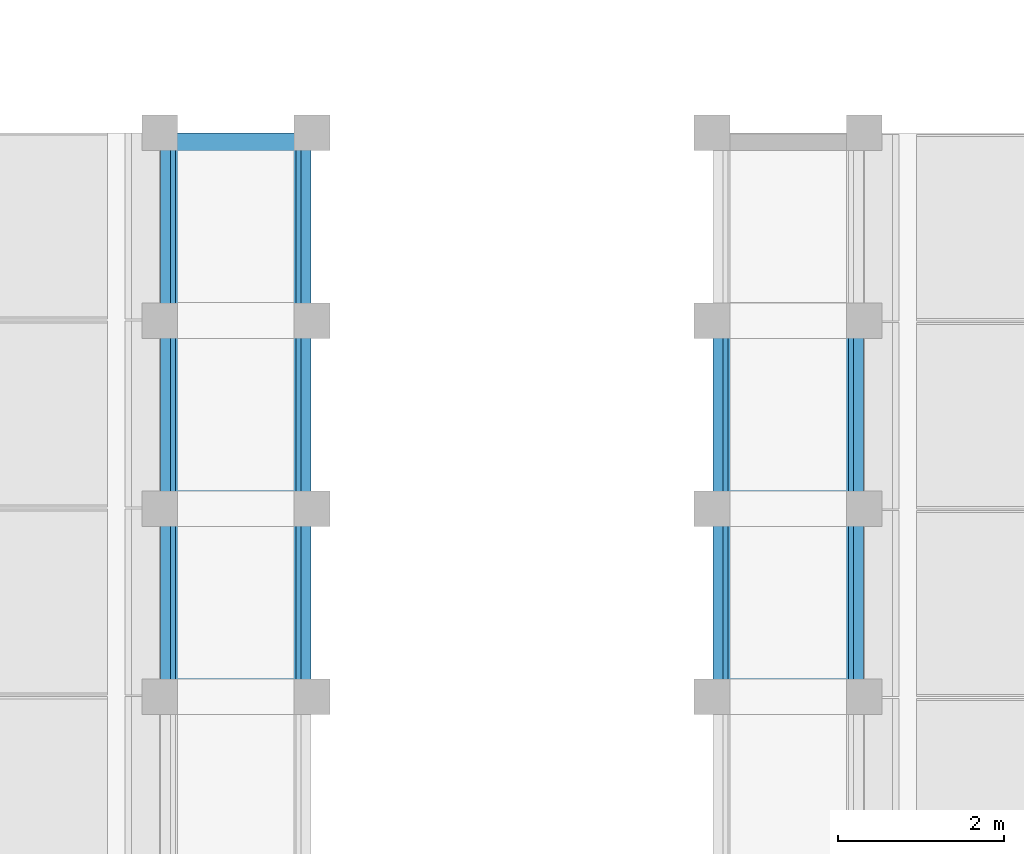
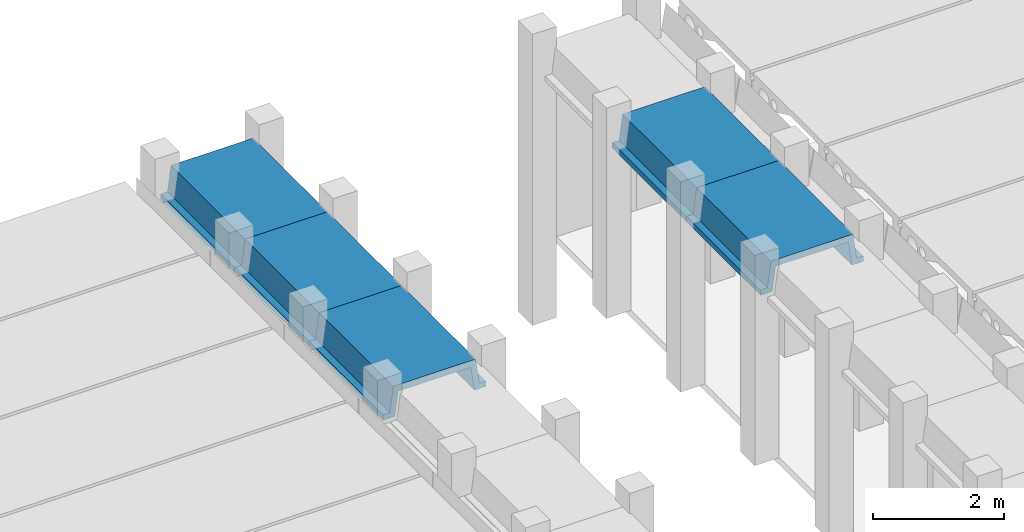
# One storey, part 16 of 21: 5 beams.
"""IFC2X3 building model written with IfcOpenShell, lengths in millimetres."""

from ifc_helpers import new_model, entity, si_unit, converted_unit, derived_unit, direction, frame, origin, place, context, subcontext, project, spatial, polyline, outline, extrude, material, type_object, element, save


model = new_model("IFC2X3")

# Units and contexts
model_context = context("Model", 3, precision=0.01, world=origin(), true_north=direction((6.12303176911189e-17, 1.0)))
body_context = subcontext(model_context, "Body", "Model", "MODEL_VIEW")
ifc_project = project(units=[si_unit("LENGTHUNIT", "METRE", prefix="MILLI"), si_unit("AREAUNIT", "SQUARE_METRE"), si_unit("VOLUMEUNIT", "CUBIC_METRE"), converted_unit("PLANEANGLEUNIT", "DEGREE", entity("IfcRatioMeasure", 0.0174532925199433), si_unit("PLANEANGLEUNIT", "RADIAN"), dimensions=[0, 0, 0, 0, 0, 0, 0]), si_unit("MASSUNIT", "GRAM", prefix="KILO"), derived_unit("MASSDENSITYUNIT", [(si_unit("MASSUNIT", "GRAM", prefix="KILO"), 1), (si_unit("LENGTHUNIT", "METRE"), -3)]), derived_unit("MOMENTOFINERTIAUNIT", [(si_unit("LENGTHUNIT", "METRE"), 4)]), si_unit("TIMEUNIT", "SECOND"), si_unit("FREQUENCYUNIT", "HERTZ"), si_unit("THERMODYNAMICTEMPERATUREUNIT", "DEGREE_CELSIUS"), derived_unit("THERMALTRANSMITTANCEUNIT", [(si_unit("MASSUNIT", "GRAM", prefix="KILO"), 1), (si_unit("THERMODYNAMICTEMPERATUREUNIT", "KELVIN"), -1), (si_unit("TIMEUNIT", "SECOND"), -3)]), derived_unit("VOLUMETRICFLOWRATEUNIT", [(si_unit("LENGTHUNIT", "METRE"), 3), (si_unit("TIMEUNIT", "SECOND"), -1)]), si_unit("ELECTRICCURRENTUNIT", "AMPERE"), si_unit("ELECTRICVOLTAGEUNIT", "VOLT"), si_unit("POWERUNIT", "WATT"), si_unit("FORCEUNIT", "NEWTON", prefix="KILO"), si_unit("ILLUMINANCEUNIT", "LUX"), si_unit("LUMINOUSFLUXUNIT", "LUMEN"), si_unit("LUMINOUSINTENSITYUNIT", "CANDELA"), derived_unit("USERDEFINED", [(si_unit("MASSUNIT", "GRAM", prefix="KILO"), -1), (si_unit("LENGTHUNIT", "METRE"), -2), (si_unit("TIMEUNIT", "SECOND"), 3), (si_unit("LUMINOUSFLUXUNIT", "LUMEN"), 1)]), derived_unit("LINEARVELOCITYUNIT", [(si_unit("LENGTHUNIT", "METRE"), 1), (si_unit("TIMEUNIT", "SECOND"), -1)]), si_unit("PRESSUREUNIT", "PASCAL"), derived_unit("USERDEFINED", [(si_unit("LENGTHUNIT", "METRE"), -2), (si_unit("MASSUNIT", "GRAM", prefix="KILO"), 1), (si_unit("TIMEUNIT", "SECOND"), -2)]), derived_unit("LINEARFORCEUNIT", [(si_unit("MASSUNIT", "GRAM", prefix="KILO"), 1), (si_unit("LENGTHUNIT", "METRE"), 1), (si_unit("TIMEUNIT", "SECOND"), -2), (si_unit("LENGTHUNIT", "METRE"), -1)]), derived_unit("PLANARFORCEUNIT", [(si_unit("MASSUNIT", "GRAM", prefix="KILO"), 1), (si_unit("LENGTHUNIT", "METRE"), 1), (si_unit("TIMEUNIT", "SECOND"), -2), (si_unit("LENGTHUNIT", "METRE"), -2)])], contexts=[model_context])

# Site, building, storey
site_placement = place(None, frame((10627.5135316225, 21939.0796949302, 0.0)))
site = spatial("IfcSite", under=ifc_project, at=site_placement, Name="Default", CompositionType="ELEMENT")
building_placement = place(site_placement, origin())
building = spatial("IfcBuilding", under=site, at=building_placement, CompositionType="ELEMENT")
storey_placement = place(building_placement, frame((0.0, 0.0, 7320.0)))
storey = spatial("IfcBuildingStorey", under=building, at=storey_placement, Name="R+2", CompositionType="ELEMENT", Elevation=7320.0)

# Beams
ifc_material = material(Name="Concrete, Precast Smooth, Light Grey")
beam_type = type_object("IfcBeamType", Name="Poutre petite:Poutre petite", PredefinedType="NOTDEFINED")
beam_1_placement = place(storey_placement, frame((23257.4864683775, 14220.9203050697, 3530.0), z_axis=(0.0, 0.0, 1.0), x_axis=(0.0, 1.0, 0.0)))
element("IfcBeam", 1, at=beam_1_placement, inside=storey, type_object=beam_type, material=ifc_material, Name="Poutre petite:Poutre petite", ObjectType="Poutre petite:Poutre petite", context=body_context, shape_type="SweptSolid", body=[
    extrude(outline(polyline([(103.333217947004, -905.013684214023), (203.333564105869, -905.013684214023), (203.333564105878, -700.013730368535), (-246.666782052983, -640.013684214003), (-246.666782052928, 640.013497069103), (203.333564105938, 700.0135432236), (203.333564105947, 905.014058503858), (103.333217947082, 905.014058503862), (103.333217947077, 785.013497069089), (-366.666782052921, 725.01349706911), (-366.666782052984, -725.013684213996), (103.333217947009, -785.013684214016), (103.333217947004, -905.013684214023)])), frame((0.0, -0.000187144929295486, -366.666782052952), z_axis=(1.0, 0.0, 0.0), x_axis=(0.0, 0.0, -1.0)), (0.0, 0.0, 1.0), 2260.0),
])
beam_2_placement = place(storey_placement, frame((23257.4864683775, 11960.9203050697, 3530.0), z_axis=(0.0, 0.0, 1.0), x_axis=(0.0, 1.0, 0.0)))
element("IfcBeam", 2, at=beam_2_placement, inside=storey, type_object=beam_type, material=ifc_material, Name="Poutre petite:Poutre petite", ObjectType="Poutre petite:Poutre petite", context=body_context, shape_type="SweptSolid", body=[
    extrude(outline(polyline([(103.333217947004, -905.013684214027), (203.333564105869, -905.013684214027), (203.333564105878, -700.013730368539), (-246.666782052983, -640.013684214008), (-246.666782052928, 640.013497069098), (203.333564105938, 700.013543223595), (203.333564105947, 905.014058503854), (103.333217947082, 905.014058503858), (103.333217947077, 785.013497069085), (-366.666782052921, 725.013497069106), (-366.666782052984, -725.013684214), (103.333217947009, -785.01368421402), (103.333217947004, -905.013684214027)])), frame((0.0, -0.000187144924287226, -366.666782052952), z_axis=(1.0, 0.0, 0.0), x_axis=(0.0, 0.0, -1.0)), (0.0, 0.0, 1.0), 2260.0),
])
beam_3_placement = place(storey_placement, frame((23257.4864683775, 9700.92030506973, 3530.0), z_axis=(0.0, 0.0, 1.0), x_axis=(0.0, 1.0, 0.0)))
element("IfcBeam", 3, at=beam_3_placement, inside=storey, type_object=beam_type, material=ifc_material, Name="Poutre petite:Poutre petite", ObjectType="Poutre petite:Poutre petite", context=body_context, shape_type="SweptSolid", body=[
    extrude(outline(polyline([(103.333217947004, -905.013684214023), (203.333564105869, -905.013684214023), (203.333564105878, -700.013730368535), (-246.666782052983, -640.013684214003), (-246.666782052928, 640.013497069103), (203.333564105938, 700.0135432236), (203.333564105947, 905.014058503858), (103.333217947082, 905.014058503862), (103.333217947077, 785.013497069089), (-366.666782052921, 725.01349706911), (-366.666782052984, -725.013684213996), (103.333217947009, -785.013684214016), (103.333217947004, -905.013684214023)])), frame((0.0, -0.000187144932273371, -366.666782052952), z_axis=(1.0, 0.0, 0.0), x_axis=(0.0, 0.0, -1.0)), (0.0, 0.0, 1.0), 2260.0),
])
beam_4_placement = place(storey_placement, frame((29897.4864683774, 11960.9203050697, 3530.0), z_axis=(0.0, 0.0, 1.0), x_axis=(0.0, 1.0, 0.0)))
element("IfcBeam", 4, at=beam_4_placement, inside=storey, type_object=beam_type, material=ifc_material, Name="Poutre petite:Poutre petite", ObjectType="Poutre petite:Poutre petite", context=body_context, shape_type="SweptSolid", body=[
    extrude(outline(polyline([(103.333217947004, -905.014058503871), (203.333564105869, -905.014058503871), (203.333564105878, -700.013543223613), (-246.666782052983, -640.013497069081), (-246.666782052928, 640.013684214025), (203.333564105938, 700.013730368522), (203.333564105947, 905.013684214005), (103.333217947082, 905.013684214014), (103.333217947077, 785.013684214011), (-366.666782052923, 725.013684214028), (-366.666782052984, -725.013497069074), (103.333217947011, -785.013497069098), (103.333217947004, -905.014058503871)])), frame((0.0, 0.000187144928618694, -366.666782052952), z_axis=(1.0, 0.0, 0.0), x_axis=(0.0, 0.0, -1.0)), (0.0, 0.0, 1.0), 2260.0),
])
beam_5_placement = place(storey_placement, frame((29897.4864683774, 9700.92030506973, 3530.0), z_axis=(0.0, 0.0, 1.0), x_axis=(0.0, 1.0, 0.0)))
element("IfcBeam", 5, at=beam_5_placement, inside=storey, type_object=beam_type, material=ifc_material, Name="Poutre petite:Poutre petite", ObjectType="Poutre petite:Poutre petite", context=body_context, shape_type="SweptSolid", body=[
    extrude(outline(polyline([(103.333217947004, -905.014058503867), (203.333564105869, -905.014058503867), (203.333564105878, -700.013543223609), (-246.666782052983, -640.013497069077), (-246.666782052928, 640.013684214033), (203.333564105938, 700.013730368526), (203.333564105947, 905.01368421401), (103.333217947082, 905.013684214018), (103.333217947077, 785.013684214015), (-366.666782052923, 725.013684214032), (-366.666782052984, -725.01349706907), (103.333217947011, -785.013497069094), (103.333217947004, -905.014058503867)])), frame((0.0, 0.000187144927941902, -366.666782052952), z_axis=(1.0, 0.0, 0.0), x_axis=(0.0, 0.0, -1.0)), (0.0, 0.0, 1.0), 2260.0),
])

save(model, "model.ifc")
